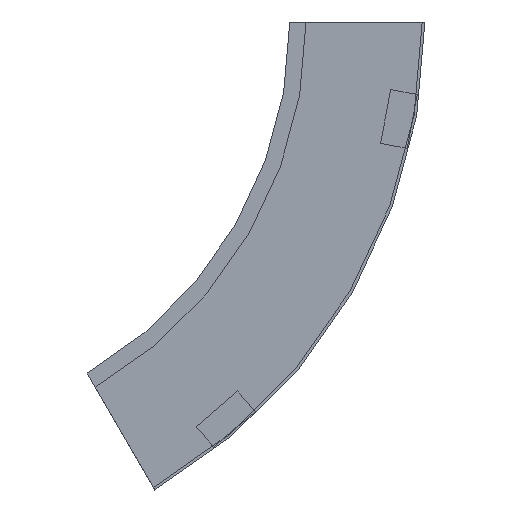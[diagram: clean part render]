
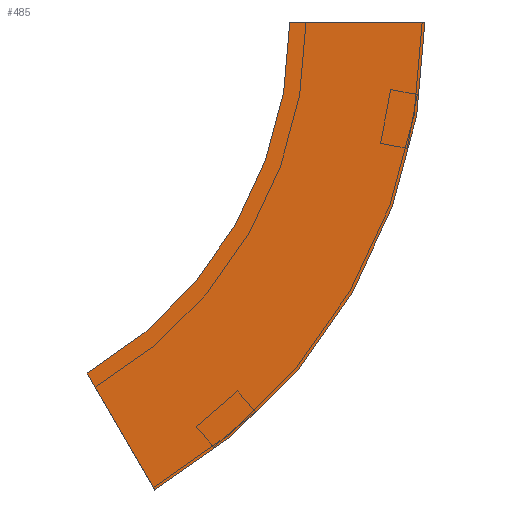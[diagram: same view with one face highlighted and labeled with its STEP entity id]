
A CAD part, left-side view. The second image highlights one B-rep face of the part: STEP entity #485.
In plain terms, the highlighted planar face has unit normal (-1, 0, 0) as drawn and (1, 0, 0) by its records, which use the part's own axes.
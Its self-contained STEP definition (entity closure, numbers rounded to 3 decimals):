
#7 = CARTESIAN_POINT ( 'NONE',  ( 0., -100., 0. ) ) ;
#57 = DIRECTION ( 'NONE',  ( 1., 0., 0. ) ) ;
#64 = CIRCLE ( 'NONE', #131, 300. ) ;
#86 = FACE_OUTER_BOUND ( 'NONE', #119, .T. ) ;
#111 = ORIENTED_EDGE ( 'NONE', *, *, #380, .F. ) ;
#113 = CARTESIAN_POINT ( 'NONE',  ( 0., 150., -259.808 ) ) ;
#115 = DIRECTION ( 'NONE',  ( 0., -1., 0. ) ) ;
#119 = EDGE_LOOP ( 'NONE', ( #378, #111, #148, #156 ) ) ;
#131 = AXIS2_PLACEMENT_3D ( 'NONE', #189, #57, #230 ) ;
#148 = ORIENTED_EDGE ( 'NONE', *, *, #385, .T. ) ;
#152 = EDGE_CURVE ( 'NONE', #518, #567, #450, .T. ) ;
#156 = ORIENTED_EDGE ( 'NONE', *, *, #152, .T. ) ;
#189 = CARTESIAN_POINT ( 'NONE',  ( 0., 300., 0. ) ) ;
#190 = VECTOR ( 'NONE', #338, 1000. ) ;
#230 = DIRECTION ( 'NONE',  ( 0., -1., 0. ) ) ;
#235 = CARTESIAN_POINT ( 'NONE',  ( 0., -100., 0. ) ) ;
#237 = VERTEX_POINT ( 'NONE', #235 ) ;
#244 = CARTESIAN_POINT ( 'NONE',  ( 0., 300., 0. ) ) ;
#248 = VECTOR ( 'NONE', #535, 1000. ) ;
#273 = DIRECTION ( 'NONE',  ( 0., 0., 1. ) ) ;
#296 = CARTESIAN_POINT ( 'NONE',  ( 0., -100., 0. ) ) ;
#320 = DIRECTION ( 'NONE',  ( -1., 0., 0. ) ) ;
#338 = DIRECTION ( 'NONE',  ( 0., 1., 0. ) ) ;
#349 = CARTESIAN_POINT ( 'NONE',  ( 0., 0., 0. ) ) ;
#354 = EDGE_CURVE ( 'NONE', #564, #567, #64, .T. ) ;
#365 = PLANE ( 'NONE',  #390 ) ;
#378 = ORIENTED_EDGE ( 'NONE', *, *, #354, .F. ) ;
#380 = EDGE_CURVE ( 'NONE', #237, #564, #561, .T. ) ;
#385 = EDGE_CURVE ( 'NONE', #237, #518, #513, .T. ) ;
#390 = AXIS2_PLACEMENT_3D ( 'NONE', #7, #320, #273 ) ;
#403 = CARTESIAN_POINT ( 'NONE',  ( 0., 100., -346.41 ) ) ;
#450 = LINE ( 'NONE', #403, #248 ) ;
#485 = ADVANCED_FACE ( 'NONE', ( #86 ), #365, .F. ) ;
#513 = CIRCLE ( 'NONE', #551, 400. ) ;
#514 = DIRECTION ( 'NONE',  ( 1., 0., 0. ) ) ;
#518 = VERTEX_POINT ( 'NONE', #539 ) ;
#535 = DIRECTION ( 'NONE',  ( 0., 0.5, 0.866 ) ) ;
#539 = CARTESIAN_POINT ( 'NONE',  ( 0., 100., -346.41 ) ) ;
#551 = AXIS2_PLACEMENT_3D ( 'NONE', #244, #514, #115 ) ;
#561 = LINE ( 'NONE', #296, #190 ) ;
#564 = VERTEX_POINT ( 'NONE', #349 ) ;
#567 = VERTEX_POINT ( 'NONE', #113 ) ;
